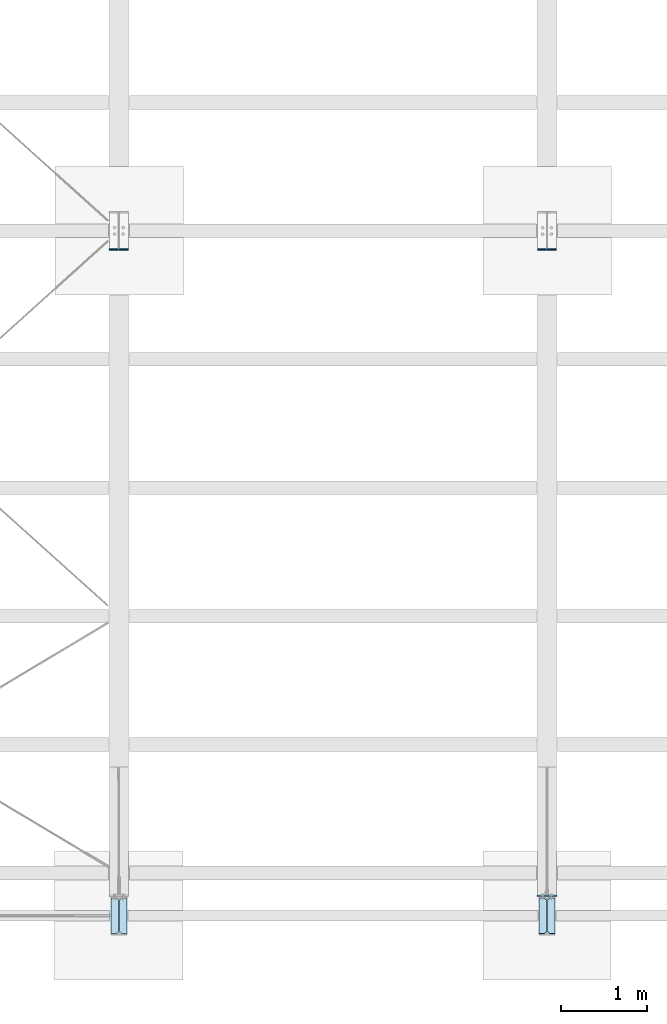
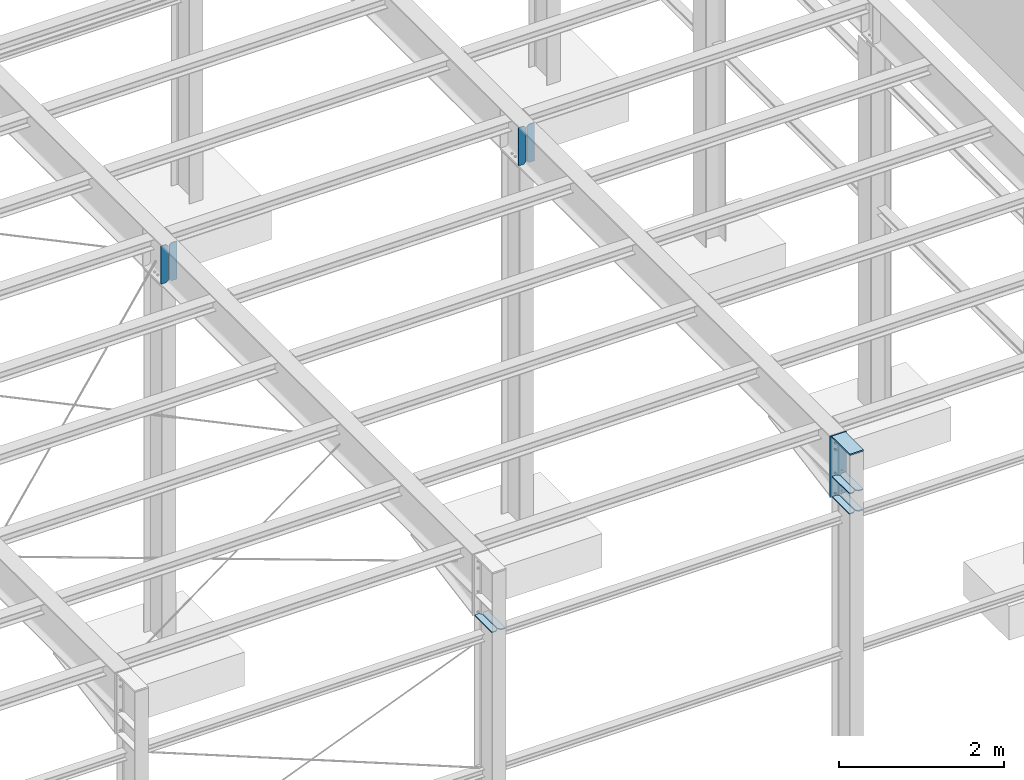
# Not in any storey, part 7 of 50: 12 plates, 28 openings.
"""IFC4 model written with IfcOpenShell, lengths in metres."""

import ifcopenshell
import ifcopenshell.guid

model = None  # the IFC model being written
_history = None  # IfcOwnerHistory: only IFC2X3 demands one
_inside = {}  # id of a spatial element -> (the spatial element, [elements in it])
_under = {}  # id of a project, library or spatial element -> (it, [spatial elements below it])
_declared = {}  # id of a project -> (the project, [libraries it declares])
_typed = {}  # id of a type object -> (the type object, [elements of that type])
_made_of = {}  # id of a material, layer set ... -> (it, [elements and type objects made of it])


def new_model(schema):
    """Start an empty IFC model of exactly this schema.

    Asked for "IFC4X3", IfcOpenShell would pick the latest addendum, in which some entities
    have other attributes; the version numbers below select the first issue.
    IFC2X3 requires an IfcOwnerHistory on every rooted entity: one is made here for all.
    """
    global model, _history
    if schema == "IFC4X3":
        model = ifcopenshell.file(schema_version=(4, 3, 0, 0))
    else:
        model = ifcopenshell.file(schema=schema)
    _inside.clear()
    _under.clear()
    _declared.clear()
    _typed.clear()
    _made_of.clear()
    _history = None
    if model.schema == "IFC2X3":
        org = make("IfcOrganization", Name="unknown")
        user = make(
            "IfcPersonAndOrganization",
            ThePerson=make("IfcPerson", FamilyName="unknown"),
            TheOrganization=org,
        )
        app = make(
            "IfcApplication",
            ApplicationDeveloper=org,
            Version="unknown",
            ApplicationFullName="unknown",
            ApplicationIdentifier="unknown",
        )
        _history = make(
            "IfcOwnerHistory",
            OwningUser=user,
            OwningApplication=app,
            ChangeAction="ADDED",
            CreationDate=0,
        )
    return model


def make(cls, **values):
    """One entity of the class cls with the attributes given. An attribute that is None is left unset."""
    return model.create_entity(
        cls, **{name: value for name, value in values.items() if value is not None}
    )


def entity(cls, *values):
    """Any entity or typed value of the class cls, its attributes in the order of the schema. None: left unset."""
    e = model.create_entity(cls)
    for i, value in enumerate(values):
        if value is not None:
            e[i] = value
    return e


def rooted(cls, **values):
    """An entity with a GlobalId (a new one), such as an element, a storey or a relation."""
    return make(cls, GlobalId=ifcopenshell.guid.new(), OwnerHistory=_history, **values)


def si_unit(unit_type, name, prefix=None):
    """IfcSIUnit, for example si_unit("LENGTHUNIT", "METRE", prefix="MILLI")."""
    return make("IfcSIUnit", UnitType=unit_type, Prefix=prefix, Name=name)


def converted_unit(unit_type, name, factor, base, dimensions=None, offset=None):
    """IfcConversionBasedUnit, such as the inch: factor (a typed value) times the base unit."""
    return make(
        "IfcConversionBasedUnit"
        if offset is None
        else "IfcConversionBasedUnitWithOffset",
        ConversionOffset=offset,
        Dimensions=None
        if dimensions is None
        else entity("IfcDimensionalExponents", *dimensions),
        UnitType=unit_type,
        Name=name,
        ConversionFactor=make(
            "IfcMeasureWithUnit", ValueComponent=factor, UnitComponent=base
        ),
    )


def derived_unit(unit_type, elements):
    """IfcDerivedUnit: a product of units, each with its exponent."""
    return make(
        "IfcDerivedUnit",
        Elements=[
            make("IfcDerivedUnitElement", Unit=unit, Exponent=power)
            for unit, power in elements
        ],
        UnitType=unit_type,
    )


def assignment(units):
    """IfcUnitAssignment: the units of a project."""
    return None if units is None else make("IfcUnitAssignment", Units=units)


def point(xyz):
    """IfcCartesianPoint."""
    return None if xyz is None else make("IfcCartesianPoint", Coordinates=xyz)


def direction(xyz):
    """IfcDirection."""
    return None if xyz is None else make("IfcDirection", DirectionRatios=xyz)


def frame(location, z_axis=None, x_axis=None):
    """IfcAxis2Placement3D, a coordinate frame: its origin and axes. An axis left out is left unset."""
    return make(
        "IfcAxis2Placement3D",
        Location=point(location),
        Axis=direction(z_axis),
        RefDirection=direction(x_axis),
    )


def frame_2d(location, x_axis=None):
    """IfcAxis2Placement2D, a coordinate frame in the plane: its origin and x axis."""
    return make(
        "IfcAxis2Placement2D", Location=point(location), RefDirection=direction(x_axis)
    )


def origin():
    """The frame at (0, 0, 0) with its axes left unset."""
    return frame((0.0, 0.0, 0.0))


def origin_with_axes():
    """The frame at (0, 0, 0) with the z axis (0, 0, 1) and the x axis (1, 0, 0) written out."""
    return frame((0.0, 0.0, 0.0), z_axis=(0.0, 0.0, 1.0), x_axis=(1.0, 0.0, 0.0))


def origin_2d_with_axis():
    """The frame at (0, 0) in the plane with the x axis (1, 0) written out."""
    return frame_2d((0.0, 0.0), x_axis=(1.0, 0.0))


def place(relative_to, where):
    """IfcLocalPlacement: puts the frame where relative to a parent placement (None: the world)."""
    return make(
        "IfcLocalPlacement", PlacementRelTo=relative_to, RelativePlacement=where
    )


def context(
    kind, dimensions, precision=None, world=None, true_north=None, identifier=None
):
    """IfcGeometricRepresentationContext, for example the 3D "Model" context."""
    return make(
        "IfcGeometricRepresentationContext",
        ContextIdentifier=identifier,
        ContextType=kind,
        CoordinateSpaceDimension=dimensions,
        Precision=precision,
        WorldCoordinateSystem=world,
        TrueNorth=true_north,
    )


def project(units=None, contexts=None):
    """IfcProject with its units and contexts."""
    return rooted(
        "IfcProject",
        Name="project",
        RepresentationContexts=contexts,
        UnitsInContext=assignment(units),
    )


def spatial(cls, under=None, at=None, **own):
    """A site, building, storey or space (cls), placed at a placement, below another one or the project."""
    s = rooted(cls, ObjectPlacement=at, **own)
    if under is not None:
        _under.setdefault(under.id(), (under, []))[1].append(s)
    return s


def polyline(points):
    """IfcPolyline through the points."""
    return make("IfcPolyline", Points=[point(p) for p in points])


def profile(cls, at=None, kind="AREA", **sizes):
    """A parametric profile (cls). Its sizes go by their IFC names, for example OverallWidth=200.0."""
    return make(cls, ProfileType=kind, Position=at, **sizes)


def circle(**sizes):
    """IfcCircleProfileDef."""
    return profile("IfcCircleProfileDef", **sizes)


def outline(outer, holes=None, kind="AREA"):
    """IfcArbitraryClosedProfileDef: a profile drawn as a closed curve; with holes, ...WithVoids."""
    if holes is None:
        return make("IfcArbitraryClosedProfileDef", ProfileType=kind, OuterCurve=outer)
    return make(
        "IfcArbitraryProfileDefWithVoids",
        ProfileType=kind,
        OuterCurve=outer,
        InnerCurves=holes,
    )


def extrude(swept, where, along, depth):
    """IfcExtrudedAreaSolid: the profile swept, set in the frame where, extruded along a direction by depth."""
    return make(
        "IfcExtrudedAreaSolid",
        SweptArea=swept,
        Position=where,
        ExtrudedDirection=direction(along),
        Depth=depth,
    )


def shape(context_of_items, identifier, shape_type, items):
    """IfcShapeRepresentation: the items that make up one representation, for example the "Body"."""
    return make(
        "IfcShapeRepresentation",
        ContextOfItems=context_of_items,
        RepresentationIdentifier=identifier,
        RepresentationType=shape_type,
        Items=items,
    )


def material(Name=None, Category=None):
    """IfcMaterial."""
    return make("IfcMaterial", Name=Name, Category=Category)


def layer(
    of_material, thickness, ventilated=None, Name=None, Category=None, Priority=None
):
    """IfcMaterialLayer: one layer of a wall or slab, of a material (None: an air gap)."""
    return make(
        "IfcMaterialLayer",
        Material=of_material,
        LayerThickness=thickness,
        IsVentilated=ventilated,
        Name=Name,
        Category=Category,
        Priority=Priority,
    )


def layer_set(layers, Name=None):
    """IfcMaterialLayerSet."""
    return make("IfcMaterialLayerSet", MaterialLayers=layers, LayerSetName=Name)


def made_of(thing, what):
    """Note that an element or type object is made of a material, layer set ...; save() writes the relation."""
    if what is not None:
        _made_of.setdefault(what.id(), (what, []))[1].append(thing)
    return thing


def element(
    cls,
    number,
    at=None,
    inside=None,
    cuts=None,
    type_object=None,
    material=None,
    context=None,
    identifier="Body",
    shape_type=None,
    held_by="IfcProductDefinitionShape",
    body=None,
    shapes=None,
    **own,
):
    """One element of the class cls, such as IfcWall. Its Tag is "e" and its number.

    at: its placement. inside: the storey or other place that contains it. cuts: it is an
    opening in that element (IfcRelVoidsElement). A single representation is given by context,
    identifier, shape_type and body (its items); several are given by shapes. held_by: the class
    of the entity that holds the representations. save() writes the other relations.
    """
    e = rooted(cls, Tag="e%d" % number, ObjectPlacement=at, **own)
    if body is not None:
        shapes = [shape(context, identifier, shape_type, body)]
    if shapes is not None:
        e.Representation = make(held_by, Representations=shapes)
    if inside is not None:
        _inside.setdefault(inside.id(), (inside, []))[1].append(e)
    if cuts is not None:
        rooted(
            "IfcRelVoidsElement", RelatingBuildingElement=cuts, RelatedOpeningElement=e
        )
    if type_object is not None:
        _typed.setdefault(type_object.id(), (type_object, []))[1].append(e)
    return made_of(e, material)


def aggregate(whole, parts):
    """IfcRelAggregates: a whole, such as a stair, and the parts it consists of."""
    return rooted("IfcRelAggregates", RelatingObject=whole, RelatedObjects=parts)


def save(model, path):
    """Write the relations noted so far, then the file.

    IfcRelAggregates (storeys below a building ...), IfcRelContainedInSpatialStructure (elements
    in a storey), IfcRelDefinesByType, IfcRelAssociatesMaterial and IfcRelDeclares: one each for
    every whole, place, type object, material and project.
    """
    for whole, parts in _under.values():
        aggregate(whole, parts)
    for where, things in _inside.values():
        rooted(
            "IfcRelContainedInSpatialStructure",
            RelatedElements=things,
            RelatingStructure=where,
        )
    for kind, things in _typed.values():
        rooted("IfcRelDefinesByType", RelatedObjects=things, RelatingType=kind)
    for what, things in _made_of.values():
        rooted("IfcRelAssociatesMaterial", RelatedObjects=things, RelatingMaterial=what)
    for by, libraries in _declared.values():
        rooted("IfcRelDeclares", RelatingContext=by, RelatedDefinitions=libraries)
    model.write(path)


model = new_model("IFC4")

# Units and contexts
model_context = context("Model", 3, precision=1e-05, world=origin(), true_north=direction((6.123233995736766e-17, 1.0)))
ifc_project = project(units=[si_unit("LENGTHUNIT", "METRE"), si_unit("AREAUNIT", "SQUARE_METRE"), converted_unit("PLANEANGLEUNIT", "DEGREE", entity("IfcPlaneAngleMeasure", 0.017453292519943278), si_unit("PLANEANGLEUNIT", "RADIAN"), dimensions=[0, 0, 0, 0, 0, 0, 0]), si_unit("VOLUMEUNIT", "CUBIC_METRE"), derived_unit("THERMALTRANSMITTANCEUNIT", [(si_unit("MASSUNIT", "GRAM", prefix="KILO"), 1), (si_unit("THERMODYNAMICTEMPERATUREUNIT", "KELVIN"), -1), (si_unit("TIMEUNIT", "SECOND"), -3)])], contexts=[model_context])

# Site
site_placement = place(None, origin())
site = spatial("IfcSite", under=ifc_project, at=site_placement, Name="Default", CompositionType="ELEMENT")

# Plate, openings
ifc_material = material(Name="Dachdeckung - Blechdach")
ifc_layer_1 = layer(ifc_material, 14.0)
ifc_layer_set_1 = layer_set([ifc_layer_1], Name="Dachdeckung - Blechdach")
plate_1_placement = place(site_placement, frame((13.184144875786, 9.70476753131, 5.419), z_axis=(0.0, 1.0, 0.0), x_axis=(-1.0, 0.0, 0.0)))
plate_1 = element("IfcPlate", 1, at=plate_1_placement, inside=site, material=ifc_layer_set_1, Name="Stiffener#3", ObjectType="Stiffener#3", context=model_context, shape_type="SweptSolid", body=[
    extrude(outline(polyline([(0.0, 0.0), (0.104, 0.0), (0.104, 0.562), (0.0, 0.562), (0.0, 0.0)])), origin_with_axes(), (0.0, 0.0, 1.0), 0.014),
])
opening_1_placement = place(plate_1_placement, frame((0.0, 0.0, -1e-05), z_axis=(0.0, 0.0, 1.0), x_axis=(1.0, 0.0, 0.0)))
element("IfcOpeningElement", 2, at=opening_1_placement, cuts=plate_1, ObjectType="Opening", context=model_context, shape_type="SweptSolid", body=[
    extrude(outline(polyline([(0.0, 0.562), (0.0, 0.532), (0.03, 0.562), (0.0, 0.562)])), origin(), (0.0, 0.0, 1.0), 0.01402),
])
opening_2_placement = place(plate_1_placement, frame((0.0, 0.0, -1e-05), z_axis=(0.0, 0.0, 1.0), x_axis=(1.0, 0.0, 0.0)))
element("IfcOpeningElement", 3, at=opening_2_placement, cuts=plate_1, ObjectType="Opening", context=model_context, shape_type="SweptSolid", body=[
    extrude(outline(polyline([(0.0, 0.0), (0.03, 0.0), (0.0, 0.03), (0.0, 0.0)])), origin(), (0.0, 0.0, 1.0), 0.01402),
])

plate_2_placement = place(site_placement, frame((13.300144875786, 9.70476753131, 5.419), z_axis=(0.0, 1.0, 0.0), x_axis=(-1.0, 0.0, 0.0)))
plate_2 = element("IfcPlate", 4, at=plate_2_placement, inside=site, material=ifc_layer_set_1, Name="Stiffener#4", ObjectType="Stiffener#4", context=model_context, shape_type="SweptSolid", body=[
    extrude(outline(polyline([(0.0, 0.0), (0.104, 0.0), (0.104, 0.562), (0.0, 0.562), (0.0, 0.0)])), origin_with_axes(), (0.0, 0.0, 1.0), 0.014),
])
opening_3_placement = place(plate_2_placement, frame((0.0, 0.0, -1e-05), z_axis=(0.0, 0.0, 1.0), x_axis=(1.0, 0.0, 0.0)))
element("IfcOpeningElement", 5, at=opening_3_placement, cuts=plate_2, ObjectType="Opening", context=model_context, shape_type="SweptSolid", body=[
    extrude(outline(polyline([(0.104, 0.562), (0.074, 0.562), (0.104, 0.532), (0.104, 0.562)])), origin(), (0.0, 0.0, 1.0), 0.01402),
])
opening_4_placement = place(plate_2_placement, frame((0.0, 0.0, -1e-05), z_axis=(0.0, 0.0, 1.0), x_axis=(1.0, 0.0, 0.0)))
element("IfcOpeningElement", 6, at=opening_4_placement, cuts=plate_2, ObjectType="Opening", context=model_context, shape_type="SweptSolid", body=[
    extrude(outline(polyline([(0.104, 0.0), (0.104, 0.03), (0.074, 0.0), (0.104, 0.0)])), origin(), (0.0, 0.0, 1.0), 0.01402),
])

plate_3_placement = place(site_placement, frame((18.184144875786, 9.70476753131, 5.419), z_axis=(0.0, 1.0, 0.0), x_axis=(-1.0, 0.0, 0.0)))
plate_3 = element("IfcPlate", 7, at=plate_3_placement, inside=site, material=ifc_layer_set_1, Name="Stiffener#3", ObjectType="Stiffener#3", context=model_context, shape_type="SweptSolid", body=[
    extrude(outline(polyline([(0.0, 0.0), (0.104, 0.0), (0.104, 0.562), (0.0, 0.562), (0.0, 0.0)])), origin_with_axes(), (0.0, 0.0, 1.0), 0.014),
])
opening_5_placement = place(plate_3_placement, frame((0.0, 0.0, -1e-05), z_axis=(0.0, 0.0, 1.0), x_axis=(1.0, 0.0, 0.0)))
element("IfcOpeningElement", 8, at=opening_5_placement, cuts=plate_3, ObjectType="Opening", context=model_context, shape_type="SweptSolid", body=[
    extrude(outline(polyline([(0.0, 0.562), (0.0, 0.532), (0.03, 0.562), (0.0, 0.562)])), origin(), (0.0, 0.0, 1.0), 0.01402),
])
opening_6_placement = place(plate_3_placement, frame((0.0, 0.0, -1e-05), z_axis=(0.0, 0.0, 1.0), x_axis=(1.0, 0.0, 0.0)))
element("IfcOpeningElement", 9, at=opening_6_placement, cuts=plate_3, ObjectType="Opening", context=model_context, shape_type="SweptSolid", body=[
    extrude(outline(polyline([(0.0, 0.0), (0.03, 0.0), (0.0, 0.03), (0.0, 0.0)])), origin(), (0.0, 0.0, 1.0), 0.01402),
])

plate_4_placement = place(site_placement, frame((18.300144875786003, 9.70476753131, 5.419), z_axis=(0.0, 1.0, 0.0), x_axis=(-1.0, 0.0, 0.0)))
plate_4 = element("IfcPlate", 10, at=plate_4_placement, inside=site, material=ifc_layer_set_1, Name="Stiffener#4", ObjectType="Stiffener#4", context=model_context, shape_type="SweptSolid", body=[
    extrude(outline(polyline([(0.0, 0.0), (0.104, 0.0), (0.104, 0.562), (0.0, 0.562), (0.0, 0.0)])), origin_with_axes(), (0.0, 0.0, 1.0), 0.014),
])
opening_7_placement = place(plate_4_placement, frame((0.0, 0.0, -1e-05), z_axis=(0.0, 0.0, 1.0), x_axis=(1.0, 0.0, 0.0)))
element("IfcOpeningElement", 11, at=opening_7_placement, cuts=plate_4, ObjectType="Opening", context=model_context, shape_type="SweptSolid", body=[
    extrude(outline(polyline([(0.104, 0.562), (0.074, 0.562), (0.104, 0.532), (0.104, 0.562)])), origin(), (0.0, 0.0, 1.0), 0.01402),
])
opening_8_placement = place(plate_4_placement, frame((0.0, 0.0, -1e-05), z_axis=(0.0, 0.0, 1.0), x_axis=(1.0, 0.0, 0.0)))
element("IfcOpeningElement", 12, at=opening_8_placement, cuts=plate_4, ObjectType="Opening", context=model_context, shape_type="SweptSolid", body=[
    extrude(outline(polyline([(0.104, 0.0), (0.104, 0.03), (0.074, 0.0), (0.104, 0.0)])), origin(), (0.0, 0.0, 1.0), 0.01402),
])

# Plate
ifc_layer_2 = layer(ifc_material, 20.0)
ifc_layer_set_2 = layer_set([ifc_layer_2], Name="Dachdeckung - Blechdach")
plate_5_placement = place(site_placement, frame((18.285144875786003, 2.1497675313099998, 5.98), z_axis=(0.0, 0.0, 1.0), x_axis=(-1.0, 0.0, 0.0)))
element("IfcPlate", 13, at=plate_5_placement, inside=site, material=ifc_layer_set_2, Name="Coverplate", ObjectType="Coverplate", context=model_context, shape_type="SweptSolid", body=[
    extrude(outline(polyline([(0.0, 0.0), (0.19, 0.0), (0.19, 0.44), (0.0, 0.44), (0.0, 0.0)])), origin_with_axes(), (0.0, 0.0, 1.0), 0.02),
])

# Plate, openings
ifc_layer_3 = layer(ifc_material, 15.0)
ifc_layer_set_3 = layer_set([ifc_layer_3], Name="Dachdeckung - Blechdach")
plate_6_placement = place(site_placement, frame((18.305144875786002, 2.1697675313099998, 5.995), z_axis=(0.0, -1.0, 0.0), x_axis=(-1.0, 0.0, 0.0)))
plate_6 = element("IfcPlate", 14, at=plate_6_placement, inside=site, material=ifc_layer_set_3, Name="Endplate", ObjectType="Endplate", context=model_context, shape_type="SweptSolid", body=[
    extrude(outline(polyline([(0.0, 0.0), (0.23, 0.0), (0.23, 0.9), (0.0, 0.9), (0.0, 0.0)])), origin_with_axes(), (0.0, 0.0, 1.0), 0.015),
])
opening_9_placement = place(plate_6_placement, frame((0.165, 0.85, 0.0155), z_axis=(0.0, 0.0, -1.0), x_axis=(1.0, 0.0, 0.0)))
element("IfcOpeningElement", 15, at=opening_9_placement, cuts=plate_6, ObjectType="Opening", context=model_context, shape_type="SweptSolid", body=[
    extrude(circle(Radius=0.009000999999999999, at=origin_2d_with_axis()), origin(), (0.0, 0.0, 1.0), 0.016),
])
opening_10_placement = place(plate_6_placement, frame((0.065, 0.85, 0.0155), z_axis=(0.0, 0.0, -1.0), x_axis=(1.0, 0.0, 0.0)))
element("IfcOpeningElement", 16, at=opening_10_placement, cuts=plate_6, ObjectType="Opening", context=model_context, shape_type="SweptSolid", body=[
    extrude(circle(Radius=0.009000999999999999, at=origin_2d_with_axis()), origin(), (0.0, 0.0, 1.0), 0.016),
])
opening_11_placement = place(plate_6_placement, frame((0.065, 0.55, 0.0155), z_axis=(0.0, 0.0, -1.0), x_axis=(1.0, 0.0, 0.0)))
element("IfcOpeningElement", 17, at=opening_11_placement, cuts=plate_6, ObjectType="Opening", context=model_context, shape_type="SweptSolid", body=[
    extrude(circle(Radius=0.009000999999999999, at=origin_2d_with_axis()), origin(), (0.0, 0.0, 1.0), 0.016),
])
opening_12_placement = place(plate_6_placement, frame((0.165, 0.55, 0.0155), z_axis=(0.0, 0.0, -1.0), x_axis=(1.0, 0.0, 0.0)))
element("IfcOpeningElement", 18, at=opening_12_placement, cuts=plate_6, ObjectType="Opening", context=model_context, shape_type="SweptSolid", body=[
    extrude(circle(Radius=0.009000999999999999, at=origin_2d_with_axis()), origin(), (0.0, 0.0, 1.0), 0.016),
])
opening_13_placement = place(plate_6_placement, frame((0.165, 0.1, 0.0155), z_axis=(0.0, 0.0, -1.0), x_axis=(1.0, 0.0, 0.0)))
element("IfcOpeningElement", 19, at=opening_13_placement, cuts=plate_6, ObjectType="Opening", context=model_context, shape_type="SweptSolid", body=[
    extrude(circle(Radius=0.009000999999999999, at=origin_2d_with_axis()), origin(), (0.0, 0.0, 1.0), 0.016),
])
opening_14_placement = place(plate_6_placement, frame((0.065, 0.1, 0.0155), z_axis=(0.0, 0.0, -1.0), x_axis=(1.0, 0.0, 0.0)))
element("IfcOpeningElement", 20, at=opening_14_placement, cuts=plate_6, ObjectType="Opening", context=model_context, shape_type="SweptSolid", body=[
    extrude(circle(Radius=0.009000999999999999, at=origin_2d_with_axis()), origin(), (0.0, 0.0, 1.0), 0.016),
])
opening_15_placement = place(plate_6_placement, frame((0.065, 0.2, 0.0155), z_axis=(0.0, 0.0, -1.0), x_axis=(1.0, 0.0, 0.0)))
element("IfcOpeningElement", 21, at=opening_15_placement, cuts=plate_6, ObjectType="Opening", context=model_context, shape_type="SweptSolid", body=[
    extrude(circle(Radius=0.009000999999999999, at=origin_2d_with_axis()), origin(), (0.0, 0.0, 1.0), 0.016),
])
opening_16_placement = place(plate_6_placement, frame((0.165, 0.2, 0.0155), z_axis=(0.0, 0.0, -1.0), x_axis=(1.0, 0.0, 0.0)))
element("IfcOpeningElement", 22, at=opening_16_placement, cuts=plate_6, ObjectType="Opening", context=model_context, shape_type="SweptSolid", body=[
    extrude(circle(Radius=0.009000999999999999, at=origin_2d_with_axis()), origin(), (0.0, 0.0, 1.0), 0.016),
])

plate_7_placement = place(site_placement, frame((18.194844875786, 2.13916753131, 5.415), z_axis=(0.0, 0.0, -1.0), x_axis=(1.0, 0.0, 0.0)))
plate_7 = element("IfcPlate", 23, at=plate_7_placement, inside=site, material=ifc_layer_set_3, Name="Stiffener#2", ObjectType="Stiffener#2", context=model_context, shape_type="SweptSolid", body=[
    extrude(outline(polyline([(0.0, 0.0), (0.09, 0.0), (0.09, 0.4188), (0.0, 0.4188), (0.0, 0.0)])), origin_with_axes(), (0.0, 0.0, 1.0), 0.015),
])
opening_17_placement = place(plate_7_placement, frame((0.0, 0.0, -1e-05), z_axis=(0.0, 0.0, 1.0), x_axis=(1.0, 0.0, 0.0)))
element("IfcOpeningElement", 24, at=opening_17_placement, cuts=plate_7, ObjectType="Opening", context=model_context, shape_type="SweptSolid", body=[
    extrude(outline(polyline([(0.0, 0.4188), (0.0, 0.38880000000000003), (0.03, 0.4188), (0.0, 0.4188)])), origin(), (0.0, 0.0, 1.0), 0.01502),
])
opening_18_placement = place(plate_7_placement, frame((0.0, 0.0, -1e-05), z_axis=(0.0, 0.0, 1.0), x_axis=(1.0, 0.0, 0.0)))
element("IfcOpeningElement", 25, at=opening_18_placement, cuts=plate_7, ObjectType="Opening", context=model_context, shape_type="SweptSolid", body=[
    extrude(outline(polyline([(0.0, 0.0), (0.03, 0.0), (0.0, 0.03), (0.0, 0.0)])), origin(), (0.0, 0.0, 1.0), 0.01502),
])

plate_8_placement = place(site_placement, frame((18.095444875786, 2.13916753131, 5.415), z_axis=(0.0, 0.0, -1.0), x_axis=(1.0, 0.0, 0.0)))
plate_8 = element("IfcPlate", 26, at=plate_8_placement, inside=site, material=ifc_layer_set_3, Name="Stiffener#2", ObjectType="Stiffener#2", context=model_context, shape_type="SweptSolid", body=[
    extrude(outline(polyline([(0.0, 0.0), (0.09, 0.0), (0.09, 0.4188), (0.0, 0.4188), (0.0, 0.0)])), origin_with_axes(), (0.0, 0.0, 1.0), 0.015),
])
opening_19_placement = place(plate_8_placement, frame((0.0, 0.0, -1e-05), z_axis=(0.0, 0.0, 1.0), x_axis=(1.0, 0.0, 0.0)))
element("IfcOpeningElement", 27, at=opening_19_placement, cuts=plate_8, ObjectType="Opening", context=model_context, shape_type="SweptSolid", body=[
    extrude(outline(polyline([(0.09, 0.4188), (0.06, 0.4188), (0.09, 0.38880000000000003), (0.09, 0.4188)])), origin(), (0.0, 0.0, 1.0), 0.01502),
])
opening_20_placement = place(plate_8_placement, frame((0.0, 0.0, -1e-05), z_axis=(0.0, 0.0, 1.0), x_axis=(1.0, 0.0, 0.0)))
element("IfcOpeningElement", 28, at=opening_20_placement, cuts=plate_8, ObjectType="Opening", context=model_context, shape_type="SweptSolid", body=[
    extrude(outline(polyline([(0.09, 0.0), (0.09, 0.03), (0.06, 0.0), (0.09, 0.0)])), origin(), (0.0, 0.0, 1.0), 0.01502),
])

plate_9_placement = place(site_placement, frame((18.194844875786, 2.13916753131, 5.115), z_axis=(0.0, 0.0, -1.0), x_axis=(1.0, 0.0, 0.0)))
plate_9 = element("IfcPlate", 29, at=plate_9_placement, inside=site, material=ifc_layer_set_3, Name="Stiffener#3", ObjectType="Stiffener#3", context=model_context, shape_type="SweptSolid", body=[
    extrude(outline(polyline([(0.0, 0.0), (0.09, 0.0), (0.09, 0.4188), (0.0, 0.4188), (0.0, 0.0)])), origin_with_axes(), (0.0, 0.0, 1.0), 0.015),
])
opening_21_placement = place(plate_9_placement, frame((0.0, 0.0, -1e-05), z_axis=(0.0, 0.0, 1.0), x_axis=(1.0, 0.0, 0.0)))
element("IfcOpeningElement", 30, at=opening_21_placement, cuts=plate_9, ObjectType="Opening", context=model_context, shape_type="SweptSolid", body=[
    extrude(outline(polyline([(0.0, 0.4188), (0.0, 0.38880000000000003), (0.03, 0.4188), (0.0, 0.4188)])), origin(), (0.0, 0.0, 1.0), 0.01502),
])
opening_22_placement = place(plate_9_placement, frame((0.0, 0.0, -1e-05), z_axis=(0.0, 0.0, 1.0), x_axis=(1.0, 0.0, 0.0)))
element("IfcOpeningElement", 31, at=opening_22_placement, cuts=plate_9, ObjectType="Opening", context=model_context, shape_type="SweptSolid", body=[
    extrude(outline(polyline([(0.0, 0.0), (0.03, 0.0), (0.0, 0.03), (0.0, 0.0)])), origin(), (0.0, 0.0, 1.0), 0.01502),
])

plate_10_placement = place(site_placement, frame((18.095444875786, 2.13916753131, 5.115), z_axis=(0.0, 0.0, -1.0), x_axis=(1.0, 0.0, 0.0)))
plate_10 = element("IfcPlate", 32, at=plate_10_placement, inside=site, material=ifc_layer_set_3, Name="Stiffener#14", ObjectType="Stiffener#14", context=model_context, shape_type="SweptSolid", body=[
    extrude(outline(polyline([(0.0, 0.0), (0.09, 0.0), (0.09, 0.4188), (0.0, 0.4188), (0.0, 0.0)])), origin_with_axes(), (0.0, 0.0, 1.0), 0.015),
])
opening_23_placement = place(plate_10_placement, frame((0.0, 0.0, -1e-05), z_axis=(0.0, 0.0, 1.0), x_axis=(1.0, 0.0, 0.0)))
element("IfcOpeningElement", 33, at=opening_23_placement, cuts=plate_10, ObjectType="Opening", context=model_context, shape_type="SweptSolid", body=[
    extrude(outline(polyline([(0.09, 0.4188), (0.06, 0.4188), (0.09, 0.38880000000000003), (0.09, 0.4188)])), origin(), (0.0, 0.0, 1.0), 0.01502),
])
opening_24_placement = place(plate_10_placement, frame((0.0, 0.0, -1e-05), z_axis=(0.0, 0.0, 1.0), x_axis=(1.0, 0.0, 0.0)))
element("IfcOpeningElement", 34, at=opening_24_placement, cuts=plate_10, ObjectType="Opening", context=model_context, shape_type="SweptSolid", body=[
    extrude(outline(polyline([(0.09, 0.0), (0.09, 0.03), (0.06, 0.0), (0.09, 0.0)])), origin(), (0.0, 0.0, 1.0), 0.01502),
])

plate_11_placement = place(site_placement, frame((13.194844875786, 2.13916753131, 5.115), z_axis=(0.0, 0.0, -1.0), x_axis=(1.0, 0.0, 0.0)))
plate_11 = element("IfcPlate", 35, at=plate_11_placement, inside=site, material=ifc_layer_set_3, Name="Stiffener#3", ObjectType="Stiffener#3", context=model_context, shape_type="SweptSolid", body=[
    extrude(outline(polyline([(0.0, 0.0), (0.09, 0.0), (0.09, 0.4188), (0.0, 0.4188), (0.0, 0.0)])), origin_with_axes(), (0.0, 0.0, 1.0), 0.015),
])
opening_25_placement = place(plate_11_placement, frame((0.0, 0.0, -1e-05), z_axis=(0.0, 0.0, 1.0), x_axis=(1.0, 0.0, 0.0)))
element("IfcOpeningElement", 36, at=opening_25_placement, cuts=plate_11, ObjectType="Opening", context=model_context, shape_type="SweptSolid", body=[
    extrude(outline(polyline([(0.0, 0.4188), (0.0, 0.38880000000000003), (0.03, 0.4188), (0.0, 0.4188)])), origin(), (0.0, 0.0, 1.0), 0.01502),
])
opening_26_placement = place(plate_11_placement, frame((0.0, 0.0, -1e-05), z_axis=(0.0, 0.0, 1.0), x_axis=(1.0, 0.0, 0.0)))
element("IfcOpeningElement", 37, at=opening_26_placement, cuts=plate_11, ObjectType="Opening", context=model_context, shape_type="SweptSolid", body=[
    extrude(outline(polyline([(0.0, 0.0), (0.03, 0.0), (0.0, 0.03), (0.0, 0.0)])), origin(), (0.0, 0.0, 1.0), 0.01502),
])

plate_12_placement = place(site_placement, frame((13.095444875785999, 2.13916753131, 5.115), z_axis=(0.0, 0.0, -1.0), x_axis=(1.0, 0.0, 0.0)))
plate_12 = element("IfcPlate", 38, at=plate_12_placement, inside=site, material=ifc_layer_set_3, Name="Stiffener#14", ObjectType="Stiffener#14", context=model_context, shape_type="SweptSolid", body=[
    extrude(outline(polyline([(0.0, 0.0), (0.09, 0.0), (0.09, 0.4188), (0.0, 0.4188), (0.0, 0.0)])), origin_with_axes(), (0.0, 0.0, 1.0), 0.015),
])
opening_27_placement = place(plate_12_placement, frame((0.0, 0.0, -1e-05), z_axis=(0.0, 0.0, 1.0), x_axis=(1.0, 0.0, 0.0)))
element("IfcOpeningElement", 39, at=opening_27_placement, cuts=plate_12, ObjectType="Opening", context=model_context, shape_type="SweptSolid", body=[
    extrude(outline(polyline([(0.09, 0.4188), (0.06, 0.4188), (0.09, 0.38880000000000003), (0.09, 0.4188)])), origin(), (0.0, 0.0, 1.0), 0.01502),
])
opening_28_placement = place(plate_12_placement, frame((0.0, 0.0, -1e-05), z_axis=(0.0, 0.0, 1.0), x_axis=(1.0, 0.0, 0.0)))
element("IfcOpeningElement", 40, at=opening_28_placement, cuts=plate_12, ObjectType="Opening", context=model_context, shape_type="SweptSolid", body=[
    extrude(outline(polyline([(0.09, 0.0), (0.09, 0.03), (0.06, 0.0), (0.09, 0.0)])), origin(), (0.0, 0.0, 1.0), 0.01502),
])

save(model, "model.ifc")
